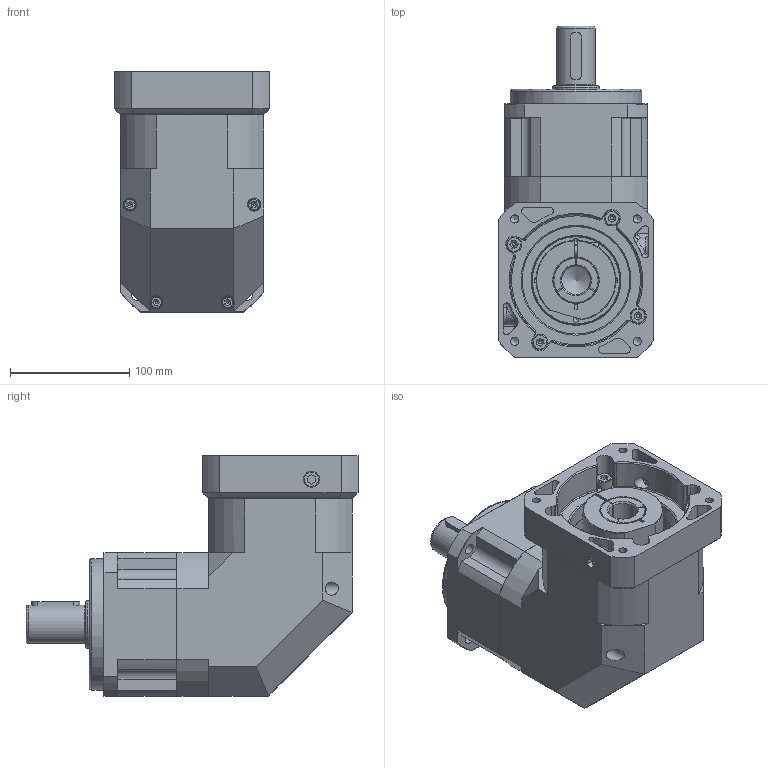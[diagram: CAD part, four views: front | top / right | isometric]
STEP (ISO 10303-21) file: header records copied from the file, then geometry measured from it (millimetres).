
FILE_DESCRIPTION((''),'2;1');
FILE_NAME('C:\Work\감속기 카다로그 도면\ATG Reducer(홈페이지)\PBL-H\STP\PBL120-H-1.stp','2014-05-27T14:51:38',('young'),(''),'Autodesk Inventor 2012','Autodesk Inventor 2012','');
FILE_SCHEMA(('AUTOMOTIVE_DESIGN { 1 0 10303 214 1 1 1 1 }'));
Length unit declared in the file: millimetre
Products named in the file (1): PBL120-H-1
Bounding box: 130 x 278 x 201 mm (x, y, z)
Volume: 2794178.8 mm3; surface area: 352261.4 mm2
Topology: 21 solids, 21 shells, 741 faces, 1880 edges, 1232 vertices
Faces by surface type: plane 386, cylinder 190, cone 104, bspline 34, torus 25, sphere 2
Full cylindrical faces by diameter (mm): 5 x8, 6 x4, 6.8 x12, 8 x10, 8.5 x1, 9 x5, 10 x4, 11 x4, 11.125 x2, 12 x1, 13 x7, 24.2 x1, 25 x1, 32 x1, 38.4 x1, 39.8 x2, 40 x2, 55 x3, 58 x1, 62 x2, 68 x1, 69 x1, 72 x1, 75 x2, 90 x1, 95 x1, 105 x3, 110 x1
Entity records: 29596 total; most frequent: CARTESIAN_POINT 12802, DIRECTION 3371, ORIENTED_EDGE 3322, EDGE_CURVE 1661, AXIS2_PLACEMENT_3D 1285, VERTEX_POINT 1181, EDGE_LOOP 1002, VECTOR 801
